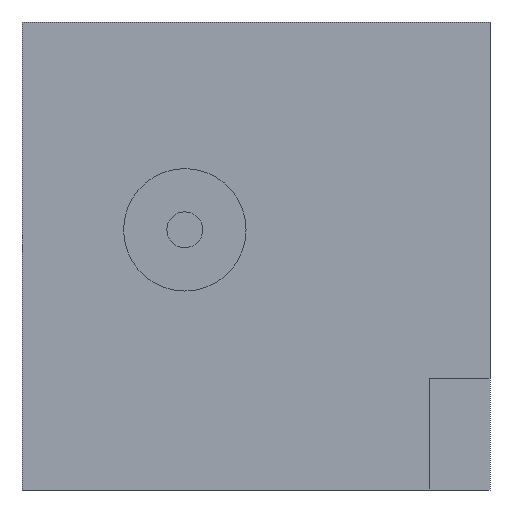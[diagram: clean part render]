
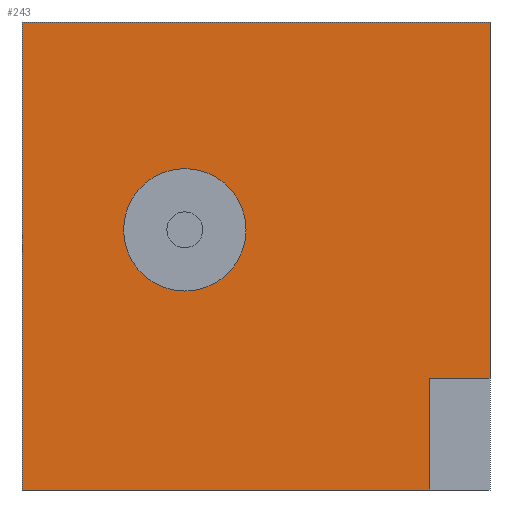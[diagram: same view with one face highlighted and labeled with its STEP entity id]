
A CAD part, left-side view. The second image highlights one B-rep face of the part: STEP entity #243.
In plain terms, the highlighted planar face has unit normal (-1, 0, 0).
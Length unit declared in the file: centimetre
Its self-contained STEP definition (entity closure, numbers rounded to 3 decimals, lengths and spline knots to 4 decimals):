
#61 = ORIENTED_EDGE ( 'NONE', *, *, #130, .T. ) ;
#63 = VERTEX_POINT ( 'NONE', #800 ) ;
#74 = VECTOR ( 'NONE', #339, 100. ) ;
#86 = DIRECTION ( 'NONE',  ( 0., 0., -1. ) ) ;
#89 = EDGE_CURVE ( 'NONE', #466, #203, #149, .T. ) ;
#95 = ORIENTED_EDGE ( 'NONE', *, *, #686, .T. ) ;
#110 = FACE_BOUND ( 'NONE', #593, .T. ) ;
#115 = DIRECTION ( 'NONE',  ( 0., 0., -1. ) ) ;
#126 = LINE ( 'NONE', #385, #277 ) ;
#128 = VECTOR ( 'NONE', #765, 100. ) ;
#130 = EDGE_CURVE ( 'NONE', #63, #246, #682, .T. ) ;
#149 = LINE ( 'NONE', #555, #831 ) ;
#163 = CARTESIAN_POINT ( 'NONE',  ( 0., 1000., 1000. ) ) ;
#176 = CARTESIAN_POINT ( 'NONE',  ( 0., 1000., 0. ) ) ;
#177 = CARTESIAN_POINT ( 'NONE',  ( 0., 1000., 1000. ) ) ;
#179 = AXIS2_PLACEMENT_3D ( 'NONE', #190, #322, #850 ) ;
#181 = EDGE_CURVE ( 'NONE', #63, #466, #223, .T. ) ;
#190 = CARTESIAN_POINT ( 'NONE',  ( 0., 652.0709, 555.9085 ) ) ;
#203 = VERTEX_POINT ( 'NONE', #495 ) ;
#223 = LINE ( 'NONE', #748, #74 ) ;
#226 = VECTOR ( 'NONE', #312, 100. ) ;
#241 = ORIENTED_EDGE ( 'NONE', *, *, #648, .T. ) ;
#243 = ADVANCED_FACE ( 'NONE', ( #110, #580 ), #564, .F. ) ;
#246 = VERTEX_POINT ( 'NONE', #373 ) ;
#265 = ORIENTED_EDGE ( 'NONE', *, *, #181, .F. ) ;
#277 = VECTOR ( 'NONE', #315, 100. ) ;
#307 = EDGE_CURVE ( 'NONE', #781, #474, #777, .T. ) ;
#312 = DIRECTION ( 'NONE',  ( 0., -1., 0. ) ) ;
#315 = DIRECTION ( 'NONE',  ( 0., 0., -1. ) ) ;
#322 = DIRECTION ( 'NONE',  ( -1., 0., 0. ) ) ;
#334 = ORIENTED_EDGE ( 'NONE', *, *, #89, .F. ) ;
#339 = DIRECTION ( 'NONE',  ( 0., -1., 0. ) ) ;
#349 = CARTESIAN_POINT ( 'NONE',  ( 0., 129.262, 0. ) ) ;
#373 = CARTESIAN_POINT ( 'NONE',  ( 0., 1000., 0. ) ) ;
#377 = DIRECTION ( 'NONE',  ( 0., 0., 1. ) ) ;
#385 = CARTESIAN_POINT ( 'NONE',  ( 0., 129.262, 0. ) ) ;
#427 = AXIS2_PLACEMENT_3D ( 'NONE', #177, #573, #115 ) ;
#466 = VERTEX_POINT ( 'NONE', #550 ) ;
#469 = VERTEX_POINT ( 'NONE', #585 ) ;
#474 = VERTEX_POINT ( 'NONE', #784 ) ;
#479 = EDGE_CURVE ( 'NONE', #474, #781, #529, .T. ) ;
#486 = AXIS2_PLACEMENT_3D ( 'NONE', #713, #504, #377 ) ;
#493 = CARTESIAN_POINT ( 'NONE',  ( 0., 129.262, 238.8284 ) ) ;
#495 = CARTESIAN_POINT ( 'NONE',  ( 0., 0., 238.8284 ) ) ;
#497 = LINE ( 'NONE', #493, #128 ) ;
#504 = DIRECTION ( 'NONE',  ( -1., 0., 0. ) ) ;
#505 = CARTESIAN_POINT ( 'NONE',  ( 0., 652.0709, 425.0546 ) ) ;
#526 = EDGE_LOOP ( 'NONE', ( #708, #241, #334, #265, #61, #95 ) ) ;
#529 = CIRCLE ( 'NONE', #179, 130.8539 ) ;
#550 = CARTESIAN_POINT ( 'NONE',  ( 0., 0., 1000. ) ) ;
#555 = CARTESIAN_POINT ( 'NONE',  ( 0., 0., 1000. ) ) ;
#564 = PLANE ( 'NONE',  #427 ) ;
#566 = ORIENTED_EDGE ( 'NONE', *, *, #479, .F. ) ;
#573 = DIRECTION ( 'NONE',  ( 1., 0., 0. ) ) ;
#580 = FACE_OUTER_BOUND ( 'NONE', #526, .T. ) ;
#585 = CARTESIAN_POINT ( 'NONE',  ( 0., 129.262, 238.8284 ) ) ;
#593 = EDGE_LOOP ( 'NONE', ( #566, #785 ) ) ;
#648 = EDGE_CURVE ( 'NONE', #469, #203, #497, .T. ) ;
#650 = VERTEX_POINT ( 'NONE', #349 ) ;
#682 = LINE ( 'NONE', #163, #751 ) ;
#686 = EDGE_CURVE ( 'NONE', #246, #650, #761, .T. ) ;
#708 = ORIENTED_EDGE ( 'NONE', *, *, #735, .F. ) ;
#713 = CARTESIAN_POINT ( 'NONE',  ( 0., 652.0709, 555.9085 ) ) ;
#735 = EDGE_CURVE ( 'NONE', #469, #650, #126, .T. ) ;
#748 = CARTESIAN_POINT ( 'NONE',  ( 0., 1000., 1000. ) ) ;
#751 = VECTOR ( 'NONE', #819, 100. ) ;
#761 = LINE ( 'NONE', #176, #226 ) ;
#765 = DIRECTION ( 'NONE',  ( 0., -1., 0. ) ) ;
#777 = CIRCLE ( 'NONE', #486, 130.8539 ) ;
#781 = VERTEX_POINT ( 'NONE', #505 ) ;
#784 = CARTESIAN_POINT ( 'NONE',  ( 0., 652.0709, 686.7624 ) ) ;
#785 = ORIENTED_EDGE ( 'NONE', *, *, #307, .F. ) ;
#800 = CARTESIAN_POINT ( 'NONE',  ( 0., 1000., 1000. ) ) ;
#819 = DIRECTION ( 'NONE',  ( 0., 0., -1. ) ) ;
#831 = VECTOR ( 'NONE', #86, 100. ) ;
#850 = DIRECTION ( 'NONE',  ( 0., 0., 1. ) ) ;
